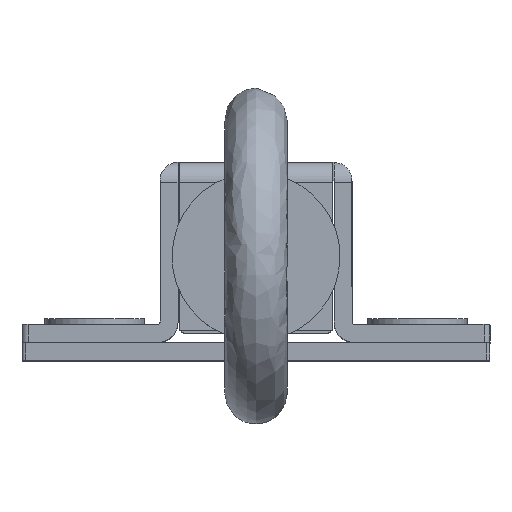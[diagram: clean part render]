
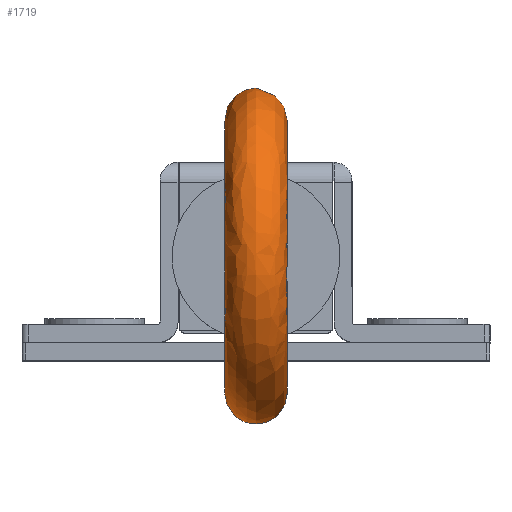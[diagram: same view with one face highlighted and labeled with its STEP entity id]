
A CAD part, top view. The second image highlights one B-rep face of the part: STEP entity #1719.
In plain terms, the highlighted free-form (B-spline) face has degree [3, 3] with [7, 7] control points.
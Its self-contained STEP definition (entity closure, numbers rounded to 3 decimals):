
#12 = CARTESIAN_POINT ( 'NONE',  ( 34.075, 19.661, 0. ) ) ;
#24 = CARTESIAN_POINT ( 'NONE',  ( 37.004, 15.773, -5.353 ) ) ;
#77 = FACE_OUTER_BOUND ( 'NONE', #999, .T. ) ;
#142 = ORIENTED_EDGE ( 'NONE', *, *, #1005, .T. ) ;
#152 = DIRECTION ( 'NONE',  ( 0.799, 0.602, 0. ) ) ;
#221 = CARTESIAN_POINT ( 'NONE',  ( 56.495, 8.48, 0.163 ) ) ;
#233 = CARTESIAN_POINT ( 'NONE',  ( 51.632, -0.157, -5.353 ) ) ;
#243 = CARTESIAN_POINT ( 'NONE',  ( 44.649, -10.663, 0.163 ) ) ;
#256 = CARTESIAN_POINT ( 'NONE',  ( 44.699, -11.109, -5.026 ) ) ;
#269 = CARTESIAN_POINT ( 'NONE',  ( 50.979, 0.461, 5.026 ) ) ;
#486 = CARTESIAN_POINT ( 'NONE',  ( 44.699, 28.069, -5.026 ) ) ;
#501 = CARTESIAN_POINT ( 'NONE',  ( 34.078, -2.697, 0.163 ) ) ;
#511 = CARTESIAN_POINT ( 'NONE',  ( 37.201, 1.448, -0.163 ) ) ;
#564 = AXIS2_PLACEMENT_3D ( 'NONE', #1612, #152, #2365 ) ;
#663 = CARTESIAN_POINT ( 'NONE',  ( 44.649, 27.623, 0.163 ) ) ;
#674 = FACE_OUTER_BOUND ( 'NONE', #2475, .T. ) ;
#717 = CIRCLE ( 'NONE', #564, 2.6 ) ;
#723 = CARTESIAN_POINT ( 'NONE',  ( 35.639, -0.624, 0. ) ) ;
#728 = CARTESIAN_POINT ( 'NONE',  ( 43.852, -3.564, -0.163 ) ) ;
#739 = CARTESIAN_POINT ( 'NONE',  ( 37.201, 15.512, -0.163 ) ) ;
#749 = CARTESIAN_POINT ( 'NONE',  ( 56.495, 21.717, 0.163 ) ) ;
#919 = CARTESIAN_POINT ( 'NONE',  ( 56.821, 8.48, -5.026 ) ) ;
#964 = CARTESIAN_POINT ( 'NONE',  ( 34.274, 19.396, 5.353 ) ) ;
#980 = CARTESIAN_POINT ( 'NONE',  ( 56.168, -4.448, 5.353 ) ) ;
#989 = CARTESIAN_POINT ( 'NONE',  ( 37.004, 1.187, -5.353 ) ) ;
#999 = EDGE_LOOP ( 'NONE', ( #142 ) ) ;
#1005 = EDGE_CURVE ( 'NONE', #1697, #1697, #717, .T. ) ;
#1034 = AXIS2_PLACEMENT_3D ( 'NONE', #723, #2457, #1476 ) ;
#1215 = CARTESIAN_POINT ( 'NONE',  ( 50.979, 16.499, 5.026 ) ) ;
#1227 = CARTESIAN_POINT ( 'NONE',  ( 37.397, 1.709, 5.026 ) ) ;
#1243 = CARTESIAN_POINT ( 'NONE',  ( 43.802, -3.117, 5.026 ) ) ;
#1398 = CARTESIAN_POINT ( 'NONE',  ( 56.495, 21.717, 0.163 ) ) ;
#1443 = CARTESIAN_POINT ( 'NONE',  ( 33.881, 19.918, -5.026 ) ) ;
#1462 = CARTESIAN_POINT ( 'NONE',  ( 51.305, 8.48, -0.163 ) ) ;
#1476 = DIRECTION ( 'NONE',  ( -0.601, -0.797, 0.063 ) ) ;
#1478 = CIRCLE ( 'NONE', #1034, 2.6 ) ;
#1490 = CARTESIAN_POINT ( 'NONE',  ( 44.599, 27.176, 5.353 ) ) ;
#1576 = ORIENTED_EDGE ( 'NONE', *, *, #2563, .F. ) ;
#1612 = CARTESIAN_POINT ( 'NONE',  ( 35.639, 17.584, 0. ) ) ;
#1687 = CARTESIAN_POINT ( 'NONE',  ( 44.649, 27.623, 0.163 ) ) ;
#1697 = VERTEX_POINT ( 'NONE', #12 ) ;
#1699 = CARTESIAN_POINT ( 'NONE',  ( 34.078, -2.697, 0.163 ) ) ;
#1713 = CARTESIAN_POINT ( 'NONE',  ( 51.305, 16.808, -0.163 ) ) ;
#1719 = ADVANCED_FACE ( 'NONE', ( #674, #77 ), #2005, .F. ) ;
#1739 = CARTESIAN_POINT ( 'NONE',  ( 51.305, 0.152, -0.163 ) ) ;
#1913 = CARTESIAN_POINT ( 'NONE',  ( 56.495, -4.757, 0.163 ) ) ;
#1967 = CARTESIAN_POINT ( 'NONE',  ( 44.599, -10.216, 5.353 ) ) ;
#1978 = CARTESIAN_POINT ( 'NONE',  ( 51.632, 8.48, -5.353 ) ) ;
#1986 = CARTESIAN_POINT ( 'NONE',  ( 43.902, 20.971, -5.353 ) ) ;
#2000 = CARTESIAN_POINT ( 'NONE',  ( 43.802, 20.077, 5.026 ) ) ;
#2005 =( BOUNDED_SURFACE ( )  B_SPLINE_SURFACE ( 3, 3, ( 
 ( #3169, #663, #1398, #2640, #1913, #2929, #501 ),
 ( #1443, #486, #3183, #919, #2975, #256, #2206 ),
 ( #24, #1986, #2693, #1978, #233, #2231, #989 ),
 ( #739, #2219, #1713, #1462, #1739, #728, #511 ),
 ( #2721, #2000, #1215, #2462, #269, #1243, #1227 ),
 ( #964, #1490, #2243, #2470, #980, #1967, #2705 ),
 ( #2953, #1687, #749, #221, #2683, #243, #1699 ) ),
 .UNSPECIFIED., .T., .F., .F. ) 
 B_SPLINE_SURFACE_WITH_KNOTS ( ( 4, 3, 4 ),
 ( 4, 3, 4 ),
 ( 0., 0.5, 1. ),
 ( 0., 0.5, 1. ),
 .UNSPECIFIED. ) 
 GEOMETRIC_REPRESENTATION_ITEM ( )  RATIONAL_B_SPLINE_SURFACE ( (
 ( 1., 0.631, 0.631, 1., 0.631, 0.631, 1.),
 ( 0.333, 0.21, 0.21, 0.333, 0.21, 0.21, 0.333),
 ( 0.333, 0.21, 0.21, 0.333, 0.21, 0.21, 0.333),
 ( 1., 0.631, 0.631, 1., 0.631, 0.631, 1.),
 ( 0.333, 0.21, 0.21, 0.333, 0.21, 0.21, 0.333),
 ( 0.333, 0.21, 0.21, 0.333, 0.21, 0.21, 0.333),
 ( 1., 0.631, 0.631, 1., 0.631, 0.631, 1.) ) ) 
 REPRESENTATION_ITEM ( '' )  SURFACE ( )  );
#2206 = CARTESIAN_POINT ( 'NONE',  ( 33.881, -2.958, -5.026 ) ) ;
#2219 = CARTESIAN_POINT ( 'NONE',  ( 43.852, 20.524, -0.163 ) ) ;
#2231 = CARTESIAN_POINT ( 'NONE',  ( 43.902, -4.011, -5.353 ) ) ;
#2243 = CARTESIAN_POINT ( 'NONE',  ( 56.168, 21.408, 5.353 ) ) ;
#2359 = CARTESIAN_POINT ( 'NONE',  ( 34.078, -2.697, 0.163 ) ) ;
#2365 = DIRECTION ( 'NONE',  ( -0.602, 0.799, 0. ) ) ;
#2457 = DIRECTION ( 'NONE',  ( -0.799, 0.602, 0. ) ) ;
#2462 = CARTESIAN_POINT ( 'NONE',  ( 50.979, 8.48, 5.026 ) ) ;
#2470 = CARTESIAN_POINT ( 'NONE',  ( 56.168, 8.48, 5.353 ) ) ;
#2475 = EDGE_LOOP ( 'NONE', ( #1576 ) ) ;
#2537 = VERTEX_POINT ( 'NONE', #2359 ) ;
#2563 = EDGE_CURVE ( 'NONE', #2537, #2537, #1478, .T. ) ;
#2640 = CARTESIAN_POINT ( 'NONE',  ( 56.495, 8.48, 0.163 ) ) ;
#2683 = CARTESIAN_POINT ( 'NONE',  ( 56.495, -4.757, 0.163 ) ) ;
#2693 = CARTESIAN_POINT ( 'NONE',  ( 51.632, 17.117, -5.353 ) ) ;
#2705 = CARTESIAN_POINT ( 'NONE',  ( 34.274, -2.436, 5.353 ) ) ;
#2721 = CARTESIAN_POINT ( 'NONE',  ( 37.397, 15.251, 5.026 ) ) ;
#2929 = CARTESIAN_POINT ( 'NONE',  ( 44.649, -10.663, 0.163 ) ) ;
#2953 = CARTESIAN_POINT ( 'NONE',  ( 34.078, 19.657, 0.163 ) ) ;
#2975 = CARTESIAN_POINT ( 'NONE',  ( 56.821, -5.065, -5.026 ) ) ;
#3169 = CARTESIAN_POINT ( 'NONE',  ( 34.078, 19.657, 0.163 ) ) ;
#3183 = CARTESIAN_POINT ( 'NONE',  ( 56.821, 22.025, -5.026 ) ) ;
